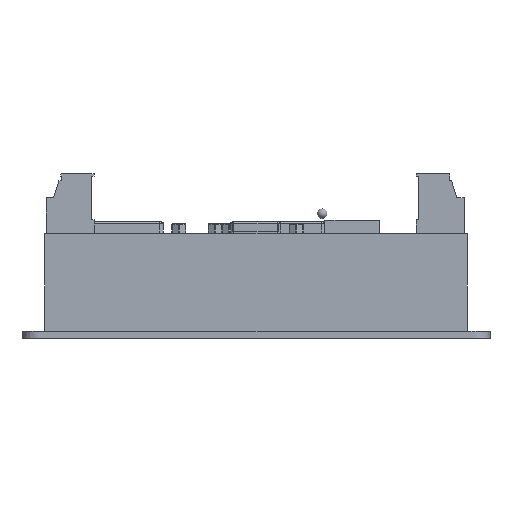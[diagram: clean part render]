
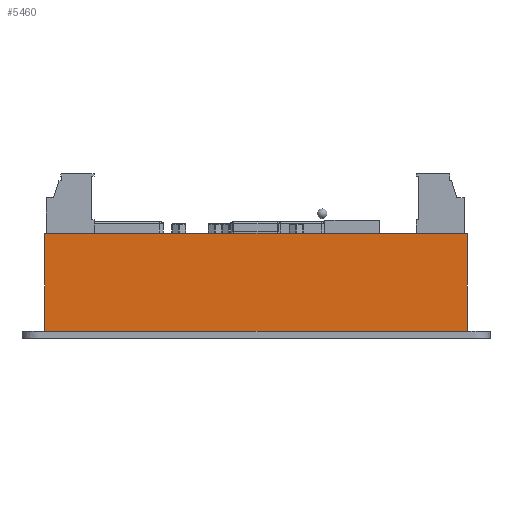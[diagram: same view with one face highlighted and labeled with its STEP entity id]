
A CAD part, left-side view. The second image highlights one B-rep face of the part: STEP entity #5460.
In plain terms, the highlighted planar face has unit normal (-1, 0, 0).
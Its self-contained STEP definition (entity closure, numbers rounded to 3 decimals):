
#5394=B_SPLINE_CURVE_WITH_KNOTS('',3,(#37429,#37430,#37431,#37432),
 .UNSPECIFIED.,.F.,.F.,(4,4),(0.,1.),.UNSPECIFIED.);
#5460=ADVANCED_FACE('',(#7968),#7057,.F.);
#7057=PLANE('',#27195);
#7968=FACE_OUTER_BOUND('',#9198,.T.);
#9198=EDGE_LOOP('',(#15522,#15523,#15524,#15525));
#11415=LINE('',#37427,#13428);
#11416=LINE('',#37434,#13429);
#13428=VECTOR('',#29803,1.);
#13429=VECTOR('',#29806,1.);
#15522=ORIENTED_EDGE('',*,*,#23944,.F.);
#15523=ORIENTED_EDGE('',*,*,#23958,.T.);
#15524=ORIENTED_EDGE('',*,*,#23959,.T.);
#15525=ORIENTED_EDGE('',*,*,#23960,.F.);
#21742=VERTEX_POINT('',#36994);
#21746=VERTEX_POINT('',#37080);
#21764=VERTEX_POINT('',#37426);
#21765=VERTEX_POINT('',#37433);
#23944=EDGE_CURVE('',#21742,#21746,#27084,.T.);
#23958=EDGE_CURVE('',#21742,#21764,#11415,.T.);
#23959=EDGE_CURVE('',#21764,#21765,#5394,.T.);
#23960=EDGE_CURVE('',#21746,#21765,#11416,.T.);
#27084=(
BOUNDED_CURVE()
B_SPLINE_CURVE(4,(#37265,#37266,#37267,#37268,#37269),.UNSPECIFIED.,.F.,
 .F.)
B_SPLINE_CURVE_WITH_KNOTS((5,5),(0.,1.),.UNSPECIFIED.)
CURVE()
GEOMETRIC_REPRESENTATION_ITEM()
RATIONAL_B_SPLINE_CURVE((0.586,0.586,0.586,
0.586,0.586))
REPRESENTATION_ITEM('')
);
#27195=AXIS2_PLACEMENT_3D('',#37435,#29807,#29808);
#29803=DIRECTION('',(0.,0.,1.));
#29806=DIRECTION('',(0.,0.,1.));
#29807=DIRECTION('',(1.,0.,0.));
#29808=DIRECTION('',(0.,0.,-1.));
#36994=CARTESIAN_POINT('',(476.082,104.579,-29.));
#37080=CARTESIAN_POINT('',(476.082,229.579,-29.));
#37265=CARTESIAN_POINT('',(476.082,104.579,-29.));
#37266=CARTESIAN_POINT('',(476.082,135.829,-29.));
#37267=CARTESIAN_POINT('',(476.082,167.079,-29.));
#37268=CARTESIAN_POINT('',(476.082,198.329,-29.));
#37269=CARTESIAN_POINT('',(476.082,229.579,-29.));
#37426=CARTESIAN_POINT('',(476.082,104.579,0.));
#37427=CARTESIAN_POINT('',(476.082,104.579,-30.));
#37429=CARTESIAN_POINT('',(476.082,104.579,0.));
#37430=CARTESIAN_POINT('',(476.082,146.246,0.));
#37431=CARTESIAN_POINT('',(476.082,187.913,0.));
#37432=CARTESIAN_POINT('',(476.082,229.579,0.));
#37433=CARTESIAN_POINT('',(476.082,229.579,0.));
#37434=CARTESIAN_POINT('',(476.082,229.579,-30.));
#37435=CARTESIAN_POINT('',(476.082,104.579,-30.));
